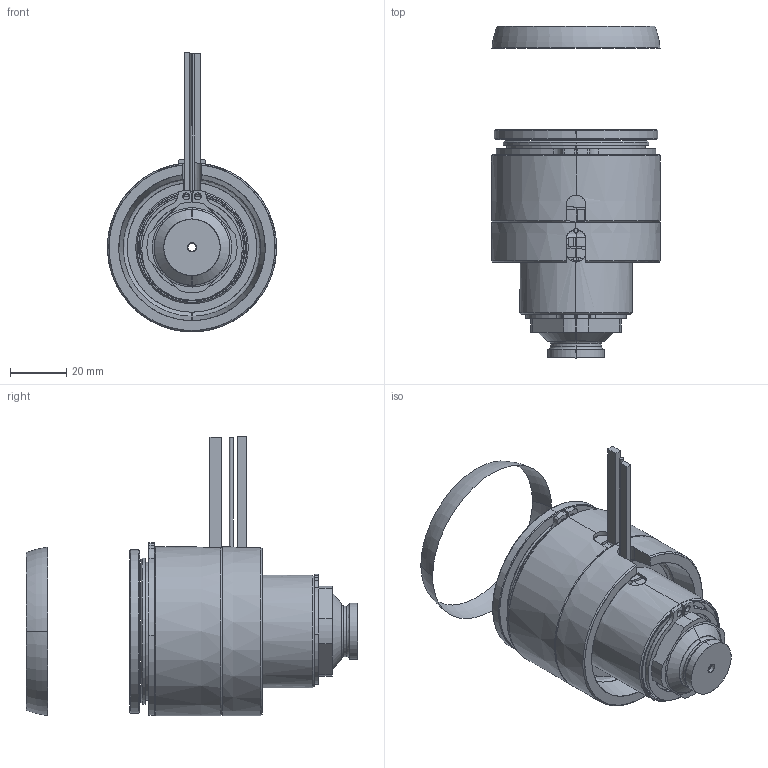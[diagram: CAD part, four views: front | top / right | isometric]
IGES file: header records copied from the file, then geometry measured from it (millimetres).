
Start section: SolidWorks IGES file using analytic representation for surfaces
Global section: file name: C:\Documents and Settings\ws-20\Desktop\TEM\UGER6601-S-A-0 [Øb-2.9 P-0 ØC-15].IGS; native system: SolidWorks 2012; preprocessor: SolidWorks 2012; author: ws-20; date: 120417.115408; units: millimetre
Bounding box: 60 x 117.77 x 99.3 mm (x, y, z)
Surface area: 51784.4 mm2 (no closed solid volume)
Topology: 0 solids, 0 shells, 176 faces, 3799 edges, 3799 vertices
Faces by surface type: revolution 112, bspline 64
